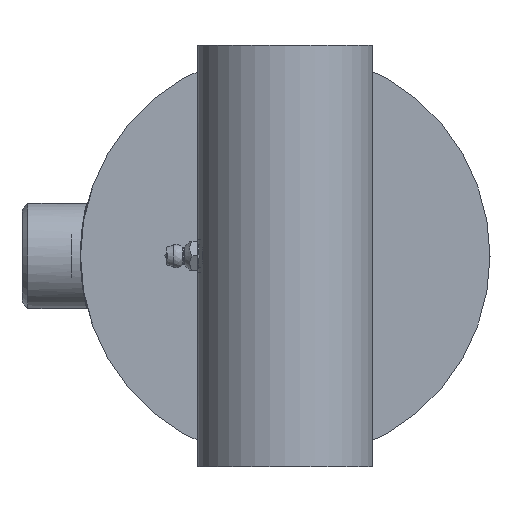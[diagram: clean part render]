
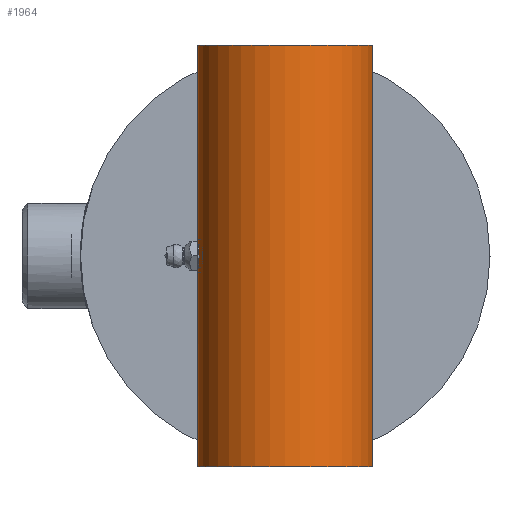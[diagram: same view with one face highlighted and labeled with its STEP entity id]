
A CAD part, left-side view. The second image highlights one B-rep face of the part: STEP entity #1964.
In plain terms, the highlighted cylindrical face has radius 23.812 mm (diameter 47.625 mm), a full revolution.
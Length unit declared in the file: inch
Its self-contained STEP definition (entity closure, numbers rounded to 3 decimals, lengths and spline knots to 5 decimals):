
#1799=CARTESIAN_POINT('',(0.,0.9375,-0.174));
#1800=VERTEX_POINT('',#1799);
#1801=CARTESIAN_POINT('',(0.,0.9375,0.174));
#1802=VERTEX_POINT('',#1801);
#1803=CARTESIAN_POINT('',(0.,0.9375,-0.174));
#1804=CARTESIAN_POINT('',(0.0219,0.9375,-0.174));
#1805=CARTESIAN_POINT('',(0.04523,0.93665,-0.16961));
#1806=CARTESIAN_POINT('',(0.08808,0.9336,-0.15184));
#1807=CARTESIAN_POINT('',(0.10762,0.93143,-0.13846));
#1808=CARTESIAN_POINT('',(0.13846,0.92735,-0.10762));
#1809=CARTESIAN_POINT('',(0.15184,0.92517,-0.08808));
#1810=CARTESIAN_POINT('',(0.16961,0.92207,-0.04523));
#1811=CARTESIAN_POINT('',(0.174,0.92121,-0.0219));
#1812=CARTESIAN_POINT('',(0.174,0.92121,0.0219));
#1813=CARTESIAN_POINT('',(0.16961,0.92207,0.04523));
#1814=CARTESIAN_POINT('',(0.15184,0.92517,0.08808));
#1815=CARTESIAN_POINT('',(0.13846,0.92735,0.10762));
#1816=CARTESIAN_POINT('',(0.10762,0.93143,0.13846));
#1817=CARTESIAN_POINT('',(0.08808,0.9336,0.15184));
#1818=CARTESIAN_POINT('',(0.04523,0.93665,0.16961));
#1819=CARTESIAN_POINT('',(0.0219,0.9375,0.174));
#1820=CARTESIAN_POINT('',(0.,0.9375,0.174));
#1821=B_SPLINE_CURVE_WITH_KNOTS('',3,(#1803,#1804,#1805,#1806,#1807,#1808,#1809,#1810,#1811,#1812,#1813,#1814,#1815,#1816,#1817,#1818,#1819,#1820),.UNSPECIFIED.,.F.,.U.,(4,2,2,2,2,2,2,2,4),(0.66759,0.83448,1.00138,1.16828,1.33518,1.50208,1.66898,1.83587,2.00277),.UNSPECIFIED.);
#1822=EDGE_CURVE('',#1800,#1802,#1821,.T.);
#1824=CARTESIAN_POINT('',(0.0,0.9375,0.174));
#1825=CARTESIAN_POINT('',(-0.0219,0.9375,0.174));
#1826=CARTESIAN_POINT('',(-0.04523,0.93665,0.16961));
#1827=CARTESIAN_POINT('',(-0.08808,0.9336,0.15184));
#1828=CARTESIAN_POINT('',(-0.10762,0.93143,0.13846));
#1829=CARTESIAN_POINT('',(-0.13846,0.92735,0.10762));
#1830=CARTESIAN_POINT('',(-0.15184,0.92517,0.08808));
#1831=CARTESIAN_POINT('',(-0.16961,0.92207,0.04523));
#1832=CARTESIAN_POINT('',(-0.174,0.92121,0.0219));
#1833=CARTESIAN_POINT('',(-0.174,0.92121,0.0));
#1834=CARTESIAN_POINT('',(-0.174,0.92121,-0.0219));
#1835=CARTESIAN_POINT('',(-0.16961,0.92207,-0.04523));
#1836=CARTESIAN_POINT('',(-0.15184,0.92517,-0.08808));
#1837=CARTESIAN_POINT('',(-0.13846,0.92735,-0.10762));
#1838=CARTESIAN_POINT('',(-0.10762,0.93143,-0.13846));
#1839=CARTESIAN_POINT('',(-0.08808,0.9336,-0.15184));
#1840=CARTESIAN_POINT('',(-0.04523,0.93665,-0.16961));
#1841=CARTESIAN_POINT('',(-0.0219,0.9375,-0.174));
#1842=CARTESIAN_POINT('',(0.0,0.9375,-0.174));
#1843=B_SPLINE_CURVE_WITH_KNOTS('',3,(#1824,#1825,#1826,#1827,#1828,#1829,#1830,#1831,#1832,#1833,#1834,#1835,#1836,#1837,#1838,#1839,#1840,#1841,#1842),.UNSPECIFIED.,.F.,.U.,(4,2,2,2,3,2,2,2,4),(2.00277,2.16966,2.33655,2.50345,2.67036,2.83726,3.00416,3.17105,3.33794),.UNSPECIFIED.);
#1844=EDGE_CURVE('',#1802,#1800,#1843,.T.);
#1926=CARTESIAN_POINT('',(0.9375,0.,-2.25));
#1927=VERTEX_POINT('',#1926);
#1928=CARTESIAN_POINT('',(0.0,0.0,-2.25));
#1929=DIRECTION('',(0.0,0.0,1.0));
#1930=DIRECTION('',(-1.0,0.0,0.0));
#1931=AXIS2_PLACEMENT_3D('',#1928,#1929,#1930);
#1932=CIRCLE('',#1931,0.9375);
#1933=EDGE_CURVE('',#1927,#1927,#1932,.T.);
#1941=CARTESIAN_POINT('',(0.0,0.0,0.0));
#1942=DIRECTION('',(0.0,0.0,1.0));
#1943=DIRECTION('',(-1.0,0.0,0.0));
#1944=AXIS2_PLACEMENT_3D('',#1941,#1942,#1943);
#1945=CYLINDRICAL_SURFACE('',#1944,0.9375);
#1946=ORIENTED_EDGE('',*,*,#1933,.T.);
#1947=EDGE_LOOP('',(#1946));
#1948=FACE_OUTER_BOUND('',#1947,.T.);
#1949=ORIENTED_EDGE('',*,*,#1822,.T.);
#1950=ORIENTED_EDGE('',*,*,#1844,.T.);
#1951=EDGE_LOOP('',(#1949,#1950));
#1952=FACE_BOUND('',#1951,.T.);
#1953=CARTESIAN_POINT('',(0.9375,0.,2.25));
#1954=VERTEX_POINT('',#1953);
#1955=CARTESIAN_POINT('',(0.0,0.0,2.25));
#1956=DIRECTION('',(0.0,0.0,-1.0));
#1957=DIRECTION('',(-1.0,0.0,0.0));
#1958=AXIS2_PLACEMENT_3D('',#1955,#1956,#1957);
#1959=CIRCLE('',#1958,0.9375);
#1960=EDGE_CURVE('',#1954,#1954,#1959,.T.);
#1961=ORIENTED_EDGE('',*,*,#1960,.T.);
#1962=EDGE_LOOP('',(#1961));
#1963=FACE_BOUND('',#1962,.T.);
#1964=ADVANCED_FACE('',(#1948,#1952,#1963),#1945,.T.);
